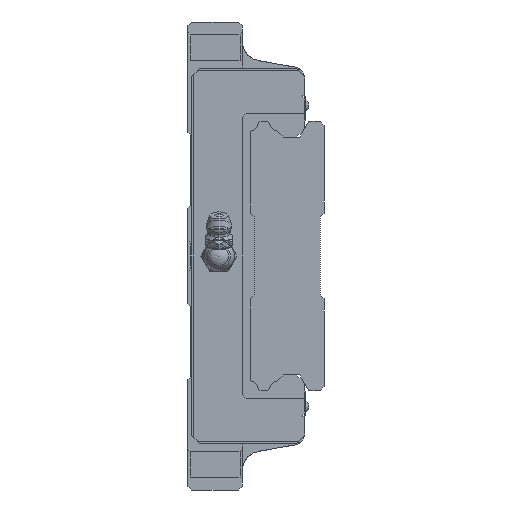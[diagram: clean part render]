
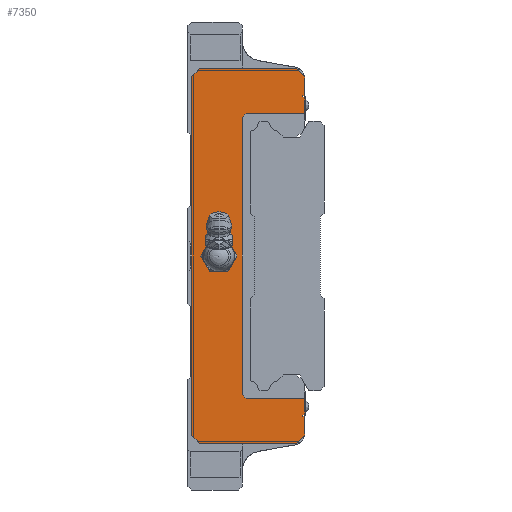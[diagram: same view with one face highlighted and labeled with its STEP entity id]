
A CAD part, left-side view. The second image highlights one B-rep face of the part: STEP entity #7350.
In plain terms, the highlighted planar face has unit normal (-1, 0, 0).
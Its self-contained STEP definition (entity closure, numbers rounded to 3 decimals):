
#122=LINE('',#11392,#582);
#137=LINE('',#11423,#597);
#144=LINE('',#11437,#604);
#148=LINE('',#11444,#608);
#158=LINE('',#11465,#618);
#161=LINE('',#11470,#621);
#180=LINE('',#11510,#640);
#181=LINE('',#11513,#641);
#182=LINE('',#11514,#642);
#183=LINE('',#11515,#643);
#184=LINE('',#11517,#644);
#185=LINE('',#11519,#645);
#186=LINE('',#11521,#646);
#187=LINE('',#11523,#647);
#188=LINE('',#11525,#648);
#189=LINE('',#11527,#649);
#190=LINE('',#11529,#650);
#191=LINE('',#11531,#651);
#192=LINE('',#11533,#652);
#193=LINE('',#11535,#653);
#194=LINE('',#11537,#654);
#195=LINE('',#11539,#655);
#582=VECTOR('',#8953,1000.);
#597=VECTOR('',#8970,1000.);
#604=VECTOR('',#8981,1000.);
#608=VECTOR('',#8987,1000.);
#618=VECTOR('',#8999,1000.);
#621=VECTOR('',#9004,1000.);
#640=VECTOR('',#9033,1000.);
#641=VECTOR('',#9034,1000.);
#642=VECTOR('',#9035,1000.);
#643=VECTOR('',#9036,1000.);
#644=VECTOR('',#9037,1000.);
#645=VECTOR('',#9038,1000.);
#646=VECTOR('',#9039,1000.);
#647=VECTOR('',#9040,1000.);
#648=VECTOR('',#9041,1000.);
#649=VECTOR('',#9042,1000.);
#650=VECTOR('',#9043,1000.);
#651=VECTOR('',#9044,1000.);
#652=VECTOR('',#9045,1000.);
#653=VECTOR('',#9046,1000.);
#654=VECTOR('',#9047,1000.);
#655=VECTOR('',#9048,1000.);
#1005=PLANE('',#7895);
#1448=CIRCLE('',#7896,3.);
#2130=ORIENTED_EDGE('',*,*,#3886,.T.);
#2131=ORIENTED_EDGE('',*,*,#3887,.F.);
#2132=ORIENTED_EDGE('',*,*,#3888,.F.);
#2133=ORIENTED_EDGE('',*,*,#3853,.F.);
#2134=ORIENTED_EDGE('',*,*,#3849,.F.);
#2135=ORIENTED_EDGE('',*,*,#3842,.F.);
#2136=ORIENTED_EDGE('',*,*,#3889,.F.);
#2137=ORIENTED_EDGE('',*,*,#3827,.F.);
#2138=ORIENTED_EDGE('',*,*,#3866,.F.);
#2139=ORIENTED_EDGE('',*,*,#3863,.F.);
#2140=ORIENTED_EDGE('',*,*,#3890,.F.);
#2141=ORIENTED_EDGE('',*,*,#3891,.F.);
#2142=ORIENTED_EDGE('',*,*,#3892,.F.);
#2143=ORIENTED_EDGE('',*,*,#3893,.F.);
#2144=ORIENTED_EDGE('',*,*,#3894,.F.);
#2145=ORIENTED_EDGE('',*,*,#3895,.T.);
#2146=ORIENTED_EDGE('',*,*,#3896,.T.);
#2147=ORIENTED_EDGE('',*,*,#3897,.T.);
#2148=ORIENTED_EDGE('',*,*,#3898,.T.);
#2149=ORIENTED_EDGE('',*,*,#3899,.T.);
#2150=ORIENTED_EDGE('',*,*,#3900,.F.);
#2151=ORIENTED_EDGE('',*,*,#3901,.F.);
#2152=ORIENTED_EDGE('',*,*,#3902,.F.);
#3827=EDGE_CURVE('',#4722,#4723,#122,.T.);
#3842=EDGE_CURVE('',#4737,#4738,#137,.T.);
#3849=EDGE_CURVE('',#4738,#4743,#144,.T.);
#3853=EDGE_CURVE('',#4743,#4745,#148,.T.);
#3863=EDGE_CURVE('',#4754,#4755,#158,.T.);
#3866=EDGE_CURVE('',#4755,#4722,#161,.T.);
#3886=EDGE_CURVE('',#4771,#4771,#1448,.T.);
#3887=EDGE_CURVE('',#4772,#4773,#180,.T.);
#3888=EDGE_CURVE('',#4745,#4772,#181,.T.);
#3889=EDGE_CURVE('',#4723,#4737,#182,.T.);
#3890=EDGE_CURVE('',#4774,#4754,#183,.T.);
#3891=EDGE_CURVE('',#4775,#4774,#184,.T.);
#3892=EDGE_CURVE('',#4776,#4775,#185,.T.);
#3893=EDGE_CURVE('',#4777,#4776,#186,.T.);
#3894=EDGE_CURVE('',#4778,#4777,#187,.T.);
#3895=EDGE_CURVE('',#4778,#4779,#188,.T.);
#3896=EDGE_CURVE('',#4779,#4780,#189,.T.);
#3897=EDGE_CURVE('',#4780,#4781,#190,.T.);
#3898=EDGE_CURVE('',#4781,#4782,#191,.T.);
#3899=EDGE_CURVE('',#4782,#4783,#192,.T.);
#3900=EDGE_CURVE('',#4784,#4783,#193,.T.);
#3901=EDGE_CURVE('',#4785,#4784,#194,.T.);
#3902=EDGE_CURVE('',#4773,#4785,#195,.T.);
#4722=VERTEX_POINT('',#11391);
#4723=VERTEX_POINT('',#11393);
#4737=VERTEX_POINT('',#11422);
#4738=VERTEX_POINT('',#11424);
#4743=VERTEX_POINT('',#11438);
#4745=VERTEX_POINT('',#11445);
#4754=VERTEX_POINT('',#11464);
#4755=VERTEX_POINT('',#11466);
#4771=VERTEX_POINT('',#11509);
#4772=VERTEX_POINT('',#11511);
#4773=VERTEX_POINT('',#11512);
#4774=VERTEX_POINT('',#11516);
#4775=VERTEX_POINT('',#11518);
#4776=VERTEX_POINT('',#11520);
#4777=VERTEX_POINT('',#11522);
#4778=VERTEX_POINT('',#11524);
#4779=VERTEX_POINT('',#11526);
#4780=VERTEX_POINT('',#11528);
#4781=VERTEX_POINT('',#11530);
#4782=VERTEX_POINT('',#11532);
#4783=VERTEX_POINT('',#11534);
#4784=VERTEX_POINT('',#11536);
#4785=VERTEX_POINT('',#11538);
#5473=EDGE_LOOP('',(#2130));
#5474=EDGE_LOOP('',(#2131,#2132,#2133,#2134,#2135,#2136,#2137,#2138,#2139,
#2140,#2141,#2142,#2143,#2144,#2145,#2146,#2147,#2148,#2149,#2150,#2151,
#2152));
#6404=FACE_BOUND('',#5473,.T.);
#6405=FACE_BOUND('',#5474,.T.);
#7350=ADVANCED_FACE('',(#6404,#6405),#1005,.F.);
#7895=AXIS2_PLACEMENT_3D('',#11507,#9029,#9030);
#7896=AXIS2_PLACEMENT_3D('',#11508,#9031,#9032);
#8953=DIRECTION('',(0.,0.707,0.707));
#8970=DIRECTION('',(0.,-0.707,0.707));
#8981=DIRECTION('',(0.,-1.,0.));
#8987=DIRECTION('',(0.,-0.707,-0.707));
#8999=DIRECTION('',(0.,0.707,-0.707));
#9004=DIRECTION('',(0.,1.,0.));
#9029=DIRECTION('',(1.,0.,0.));
#9030=DIRECTION('',(0.,0.,-1.));
#9031=DIRECTION('',(1.,0.,0.));
#9032=DIRECTION('',(0.,0.,-1.));
#9033=DIRECTION('',(0.,1.,0.));
#9034=DIRECTION('',(0.,0.,-1.));
#9035=DIRECTION('',(0.,0.,1.));
#9036=DIRECTION('',(0.,0.,-1.));
#9037=DIRECTION('',(0.,-1.,0.));
#9038=DIRECTION('',(0.,0.,-1.));
#9039=DIRECTION('',(0.,1.,0.));
#9040=DIRECTION('',(0.,0.,-1.));
#9041=DIRECTION('',(0.,1.,0.));
#9042=DIRECTION('',(0.,0.707,0.707));
#9043=DIRECTION('',(0.,0.,1.));
#9044=DIRECTION('',(0.,-0.707,0.707));
#9045=DIRECTION('',(0.,-1.,0.));
#9046=DIRECTION('',(0.,0.,-1.));
#9047=DIRECTION('',(0.,-1.,0.));
#9048=DIRECTION('',(0.,0.,-1.));
#11391=CARTESIAN_POINT('',(-51.8,28.,-48.));
#11392=CARTESIAN_POINT('',(-51.8,28.,-48.));
#11393=CARTESIAN_POINT('',(-51.8,30.,-46.));
#11422=CARTESIAN_POINT('',(-51.8,30.,46.));
#11423=CARTESIAN_POINT('',(-51.8,30.,46.));
#11424=CARTESIAN_POINT('',(-51.8,28.,48.));
#11437=CARTESIAN_POINT('',(-51.8,31.,48.));
#11438=CARTESIAN_POINT('',(-51.8,3.1,48.));
#11444=CARTESIAN_POINT('',(-51.8,3.1,48.));
#11445=CARTESIAN_POINT('',(-51.8,1.,45.9));
#11464=CARTESIAN_POINT('',(-51.8,1.,-45.9));
#11465=CARTESIAN_POINT('',(-51.8,1.,-45.9));
#11466=CARTESIAN_POINT('',(-51.8,3.1,-48.));
#11470=CARTESIAN_POINT('',(-51.8,0.,-48.));
#11507=CARTESIAN_POINT('',(-51.8,0.,0.));
#11508=CARTESIAN_POINT('',(-51.8,23.,0.));
#11509=CARTESIAN_POINT('',(-51.8,23.,-3.));
#11510=CARTESIAN_POINT('',(-51.8,0.,41.1));
#11511=CARTESIAN_POINT('',(-51.8,1.,41.1));
#11512=CARTESIAN_POINT('',(-51.8,1.5,41.1));
#11513=CARTESIAN_POINT('',(-51.8,1.,45.483));
#11514=CARTESIAN_POINT('',(-51.8,30.,-46.));
#11515=CARTESIAN_POINT('',(-51.8,1.,45.483));
#11516=CARTESIAN_POINT('',(-51.8,1.,-41.1));
#11517=CARTESIAN_POINT('',(-51.8,0.,-41.1));
#11518=CARTESIAN_POINT('',(-51.8,1.5,-41.1));
#11519=CARTESIAN_POINT('',(-51.8,1.5,0.));
#11520=CARTESIAN_POINT('',(-51.8,1.5,-40.8));
#11521=CARTESIAN_POINT('',(-51.8,0.,-40.8));
#11522=CARTESIAN_POINT('',(-51.8,1.,-40.8));
#11523=CARTESIAN_POINT('',(-51.8,1.,45.483));
#11524=CARTESIAN_POINT('',(-51.8,1.,-36.5));
#11525=CARTESIAN_POINT('',(-51.8,1.,-36.5));
#11526=CARTESIAN_POINT('',(-51.8,16.,-36.5));
#11527=CARTESIAN_POINT('',(-51.8,16.,-36.5));
#11528=CARTESIAN_POINT('',(-51.8,17.,-35.5));
#11529=CARTESIAN_POINT('',(-51.8,17.,-35.5));
#11530=CARTESIAN_POINT('',(-51.8,17.,35.5));
#11531=CARTESIAN_POINT('',(-51.8,17.,35.5));
#11532=CARTESIAN_POINT('',(-51.8,16.,36.5));
#11533=CARTESIAN_POINT('',(-51.8,16.,36.5));
#11534=CARTESIAN_POINT('',(-51.8,1.,36.5));
#11535=CARTESIAN_POINT('',(-51.8,1.,45.483));
#11536=CARTESIAN_POINT('',(-51.8,1.,40.8));
#11537=CARTESIAN_POINT('',(-51.8,0.,40.8));
#11538=CARTESIAN_POINT('',(-51.8,1.5,40.8));
#11539=CARTESIAN_POINT('',(-51.8,1.5,0.));
